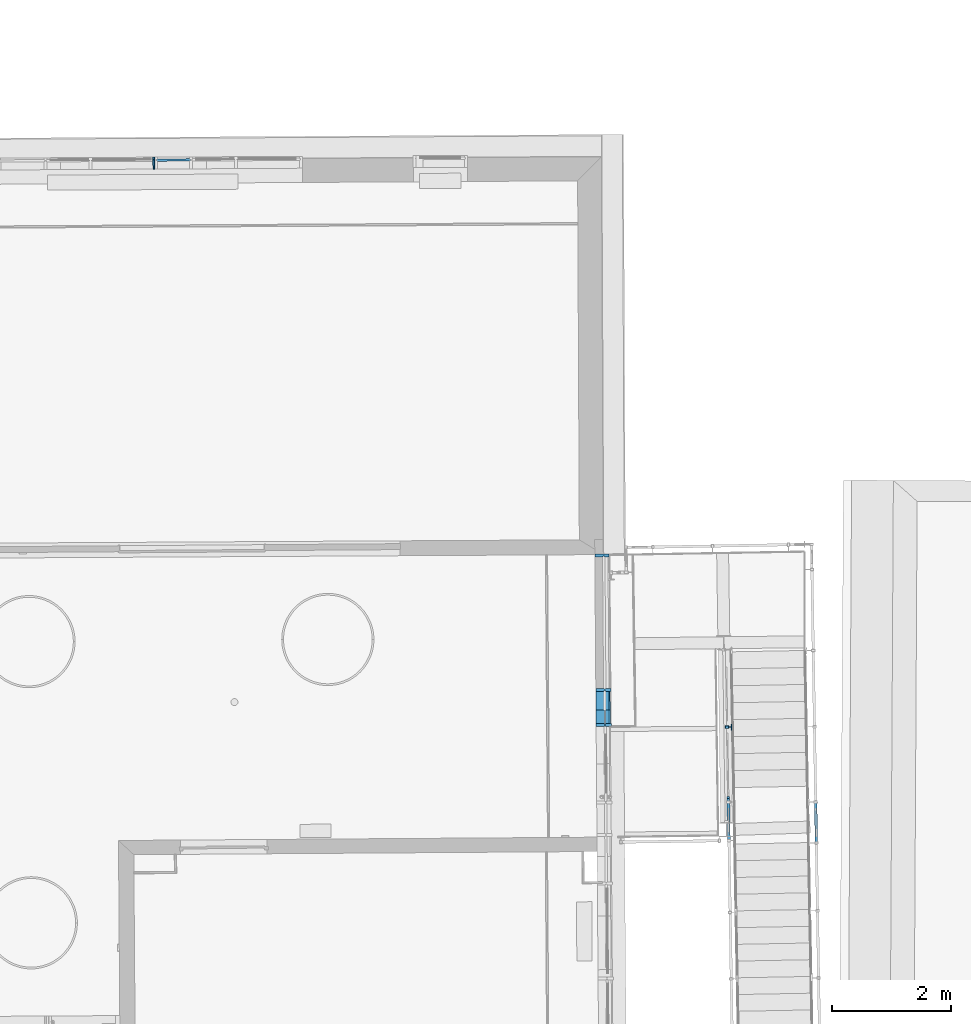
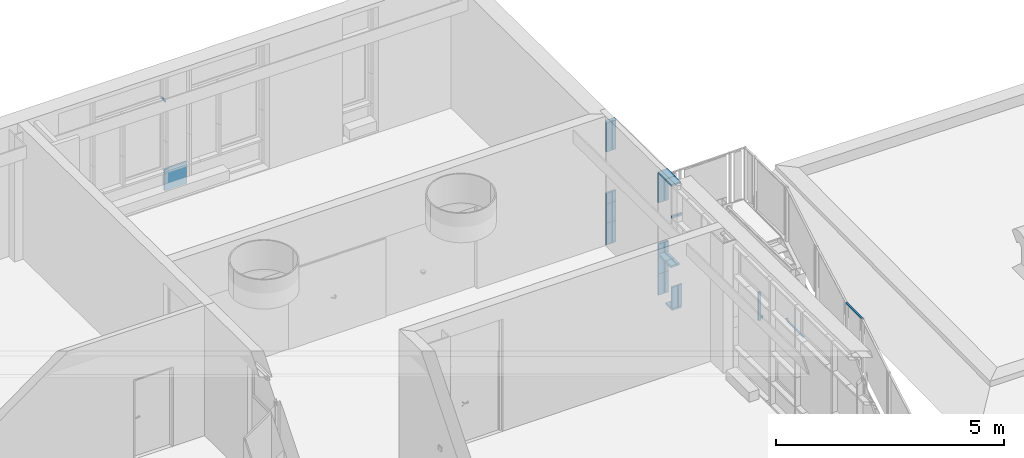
# One storey, part 133 of 158: 21 building element parts, 4 elements without a shape of their own.
"""IFC2X3 building model written with IfcOpenShell, lengths in metres."""

from ifc_helpers import new_model, entity, si_unit, converted_unit, derived_unit, money_unit, direction, frame, origin_with_axes, place, context, subcontext, project, spatial, faceted_brep, material, type_object, element, aggregate, save


model = new_model("IFC2X3")

# Units and contexts
model_context = context("Model", 3, precision=1e-05, world=origin_with_axes(), true_north=direction((0.0, 1.0)))
body_context = subcontext(model_context, "Body", "Model", "MODEL_VIEW")
ifc_project = project(units=[si_unit("LENGTHUNIT", "METRE"), si_unit("AREAUNIT", "SQUARE_METRE"), si_unit("VOLUMEUNIT", "CUBIC_METRE"), converted_unit("PLANEANGLEUNIT", "DEGREE", entity("IfcPlaneAngleMeasure", 0.0174532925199), si_unit("PLANEANGLEUNIT", "RADIAN"), dimensions=[0, 0, 0, 0, 0, 0, 0]), money_unit("EUR"), converted_unit("TIMEUNIT", "Year", entity("IfcTimeMeasure", 31556926.0), si_unit("TIMEUNIT", "SECOND"), dimensions=[0, 0, 1, 0, 0, 0, 0]), si_unit("MASSUNIT", "GRAM", prefix="KILO"), si_unit("THERMODYNAMICTEMPERATUREUNIT", "DEGREE_CELSIUS"), si_unit("LUMINOUSINTENSITYUNIT", "LUMEN"), si_unit("ENERGYUNIT", "JOULE", prefix="MEGA"), derived_unit("THERMALCONDUCTANCEUNIT", [(si_unit("POWERUNIT", "WATT"), 1), (si_unit("LENGTHUNIT", "METRE"), -1), (si_unit("THERMODYNAMICTEMPERATUREUNIT", "KELVIN"), -1)]), derived_unit("SPECIFICHEATCAPACITYUNIT", [(si_unit("ENERGYUNIT", "JOULE"), 1), (si_unit("MASSUNIT", "GRAM", prefix="KILO"), -1), (si_unit("THERMODYNAMICTEMPERATUREUNIT", "KELVIN"), -1)]), derived_unit("MASSDENSITYUNIT", [(si_unit("MASSUNIT", "GRAM", prefix="KILO"), 1), (si_unit("VOLUMEUNIT", "CUBIC_METRE"), -1)])], contexts=[model_context])

# Site, building, storey
site_placement = place(None, origin_with_axes())
site = spatial("IfcSite", under=ifc_project, at=site_placement, Name="Gelände", CompositionType="ELEMENT")
building_placement = place(site_placement, origin_with_axes())
building = spatial("IfcBuilding", under=site, at=building_placement, Name="Gebäude", CompositionType="ELEMENT")
storey_placement = place(building_placement, origin_with_axes())
storey = spatial("IfcBuildingStorey", under=building, at=storey_placement, Name="ERDGESCHOSS", CompositionType="ELEMENT", Elevation=0.0)

# Proxy, building element parts
building_element_proxy_type_1 = type_object("IfcBuildingElementProxyType", Name="Fassadentyp", PredefinedType="NOTDEFINED")
proxy_1_placement = place(storey_placement, frame((-22.8016333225, 53.9701805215, 1.34043904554), z_axis=(0.0, 0.0, 1.0), x_axis=(1.0, 0.0, 0.0)))
proxy_1 = element("IfcBuildingElementProxy", 1, at=proxy_1_placement, inside=storey, type_object=building_element_proxy_type_1, Name="Fassade-002")
ifc_material_1 = material(Name="45_Glas, Normalglas")
building_element_part_1_placement = place(proxy_1_placement, origin_with_axes())
building_element_part_1 = element("IfcBuildingElementPart", 2, at=building_element_part_1_placement, material=ifc_material_1, Name="45_Glas, Normalglas", context=body_context, shape_type="Brep", body=[
    faceted_brep([(-0.284014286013, -0.0216566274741, 0.610000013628), (0.28424755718, -0.0183426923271, 0.610000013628), (0.284014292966, 0.0216566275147, 0.610000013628), (-0.284247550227, 0.0183426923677, 0.610000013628), (-0.284014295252, -0.021656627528, 0.0349999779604), (0.28424755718, -0.0183426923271, 0.0349999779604), (0.284014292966, 0.0216566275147, 0.0349999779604), (-0.284247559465, 0.0183426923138, 0.0349999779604)], [[[0, 1, 2, 3]], [[0, 4, 5, 1]], [[1, 5, 6, 2]], [[3, 2, 6, 7]], [[4, 0, 3, 7]], [[5, 4, 7, 6]]]),
])
ifc_material_2 = material(Name="53_Metall, Aluminium")
building_element_part_2_placement = place(proxy_1_placement, origin_with_axes())
building_element_part_2 = element("IfcBuildingElementPart", 3, at=building_element_part_2_placement, material=ifc_material_2, Name="53_Metall, Aluminium", context=body_context, shape_type="Brep", body=[
    faceted_brep([(-0.345012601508, -0.0120121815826, 2.51000001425), (-0.345012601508, -0.0120121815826, 2.49500001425), (-0.344196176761, -0.152009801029, 2.49500001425), (-0.344196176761, -0.152009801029, 2.54500001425), (-0.345012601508, -0.0120121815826, 2.54500001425), (-0.345012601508, -0.0120121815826, 2.53000001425), (-0.345129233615, 0.00798747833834, 2.53000001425), (-0.345129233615, 0.00798747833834, 2.54500001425), (-0.345362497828, 0.0479867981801, 2.54500001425), (-0.345362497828, 0.0479867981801, 2.49500001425), (-0.345129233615, 0.00798747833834, 2.49500001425), (-0.345129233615, 0.00798747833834, 2.51000001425), (-0.319072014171, -0.0118609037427, 2.51000001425), (-0.319072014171, -0.0118609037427, 2.49500001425), (-0.318255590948, -0.151858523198, 2.49500001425), (-0.318255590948, -0.151858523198, 2.54500001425), (-0.319072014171, -0.0118609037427, 2.54500001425), (-0.319072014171, -0.0118609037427, 2.53000001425), (-0.31918864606, 0.00813875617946, 2.53000001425), (-0.31918864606, 0.00813875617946, 2.54500001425), (-0.319421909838, 0.0481380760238, 2.54500001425), (-0.319421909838, 0.0481380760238, 2.49500001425), (-0.31918864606, 0.00813875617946, 2.49500001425), (-0.31918864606, 0.00813875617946, 2.51000001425)], [[[0, 1, 2, 3, 4, 5, 6, 7, 8, 9, 10, 11]], [[1, 0, 12, 13]], [[1, 13, 14, 2]], [[2, 14, 15, 3]], [[4, 3, 15, 16]], [[4, 16, 17, 5]], [[5, 17, 18, 6]], [[7, 6, 18, 19]], [[19, 20, 8, 7]], [[8, 20, 21, 9]], [[22, 10, 9, 21]], [[11, 10, 22, 23]], [[0, 11, 23, 12]], [[23, 22, 21, 20, 19, 18, 17, 16, 15, 14, 13, 12]]]),
])
aggregate(proxy_1, [building_element_part_1, building_element_part_2])

proxy_2_placement = place(storey_placement, frame((-15.5457352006, 40.9565245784, 1.34043905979), z_axis=(0.0, 0.0, 1.0), x_axis=(1.0, 0.0, 0.0)))
proxy_2 = element("IfcBuildingElementProxy", 4, at=proxy_2_placement, inside=storey, type_object=building_element_proxy_type_1, Name="Fassade-002")
building_element_part_3_placement = place(proxy_2_placement, origin_with_axes())
building_element_part_3 = element("IfcBuildingElementPart", 5, at=building_element_part_3_placement, material=ifc_material_2, Name="53_Metall, Aluminium", context=body_context, shape_type="Brep", body=[
    faceted_brep([(-0.0378042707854, 3.57328589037, 1.12681093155), (-0.0178048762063, 3.57344150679, 1.12681093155), (-0.0178048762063, 3.57344150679, 1.11181093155), (0.042193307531, 3.57390835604, 1.11181093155), (0.042193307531, 3.57390835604, 1.16181093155), (-0.0178048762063, 3.57344150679, 1.16181093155), (-0.0178048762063, 3.57344150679, 1.14681093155), (-0.0378042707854, 3.57328589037, 1.14681093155), (-0.0378042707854, 3.57328589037, 1.16181093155), (-0.177800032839, 3.57219657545, 1.16181093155), (-0.177800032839, 3.57219657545, 1.11181093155), (-0.0378042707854, 3.57328589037, 1.11181093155), (-0.0395669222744, 3.79981678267, 1.12681093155), (-0.0195675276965, 3.79997239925, 1.12681093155), (-0.0195675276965, 3.79997239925, 1.11181093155), (0.040430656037, 3.80043924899, 1.11181093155), (0.040430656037, 3.80043924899, 1.16181093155), (-0.0195675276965, 3.79997239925, 1.16181093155), (-0.0195675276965, 3.79997239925, 1.14681093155), (-0.0395669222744, 3.79981678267, 1.14681093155), (-0.0395669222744, 3.79981678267, 1.16181093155), (-0.179562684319, 3.79872746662, 1.16181093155), (-0.179562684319, 3.79872746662, 1.11181093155), (-0.0395669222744, 3.79981678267, 1.11181093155)], [[[0, 1, 2, 3, 4, 5, 6, 7, 8, 9, 10, 11]], [[0, 12, 13, 1]], [[1, 13, 14, 2]], [[14, 15, 3, 2]], [[3, 15, 16, 4]], [[17, 5, 4, 16]], [[5, 17, 18, 6]], [[7, 6, 18, 19]], [[8, 7, 19, 20]], [[8, 20, 21, 9]], [[9, 21, 22, 10]], [[11, 10, 22, 23]], [[11, 23, 12, 0]], [[13, 12, 23, 22, 21, 20, 19, 18, 17, 16, 15, 14]]]),
])
building_element_part_4_placement = place(proxy_2_placement, origin_with_axes())
building_element_part_4 = element("IfcBuildingElementPart", 6, at=building_element_part_4_placement, material=ifc_material_2, Name="53_Metall, Aluminium", context=body_context, shape_type="Brep", body=[
    faceted_brep([(-0.0375319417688, 3.53828694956, 0.619999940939), (-0.0175325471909, 3.53844256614, 0.619999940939), (-0.0174158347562, 3.52344302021, 0.619999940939), (0.0775812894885, 3.52418219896, 0.619999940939), (0.0771922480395, 3.57418068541, 0.619999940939), (-0.0178048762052, 3.57344150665, 0.619999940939), (-0.0176881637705, 3.55844196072, 0.619999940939), (-0.0376875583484, 3.55828634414, 0.619999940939), (-0.0378042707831, 3.57328589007, 0.619999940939), (-0.177800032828, 3.57219657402, 0.619999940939), (-0.177410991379, 3.52219808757, 0.619999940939), (-0.0374152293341, 3.52328740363, 0.619999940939), (-0.0375319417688, 3.53828694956, 0.0500000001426), (-0.0175325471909, 3.53844256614, 0.0499999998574), (-0.0174158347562, 3.52344302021, 0.0499999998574), (0.0775812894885, 3.52418219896, 0.0499999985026), (0.0771922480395, 3.57418068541, 0.0499999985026), (-0.0178048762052, 3.57344150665, 0.0499999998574), (-0.0176881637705, 3.55844196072, 0.0499999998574), (-0.0376875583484, 3.55828634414, 0.0500000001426), (-0.0378042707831, 3.57328589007, 0.0500000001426), (-0.177800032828, 3.57219657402, 0.0500000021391), (-0.177410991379, 3.52219808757, 0.0500000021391), (-0.0374152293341, 3.52328740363, 0.0500000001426)], [[[0, 1, 2, 3, 4, 5, 6, 7, 8, 9, 10, 11]], [[0, 12, 13, 1]], [[1, 13, 14, 2]], [[14, 15, 3, 2]], [[4, 3, 15, 16]], [[17, 5, 4, 16]], [[5, 17, 18, 6]], [[7, 6, 18, 19]], [[8, 7, 19, 20]], [[8, 20, 21, 9]], [[10, 9, 21, 22]], [[11, 10, 22, 23]], [[11, 23, 12, 0]], [[13, 12, 23, 22, 21, 20, 19, 18, 17, 16, 15, 14]]]),
])
building_element_part_5_placement = place(proxy_2_placement, origin_with_axes())
building_element_part_5 = element("IfcBuildingElementPart", 7, at=building_element_part_5_placement, material=ifc_material_2, Name="53_Metall, Aluminium", context=body_context, shape_type="Brep", body=[
    faceted_brep([(-0.0375319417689, 3.53828694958, 2.51999994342), (-0.0175325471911, 3.53844256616, 2.51999994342), (-0.0174158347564, 3.52344302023, 2.51999994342), (0.0775812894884, 3.52418219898, 2.51999994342), (0.0771922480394, 3.57418068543, 2.51999994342), (-0.0178048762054, 3.57344150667, 2.51999994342), (-0.0176881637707, 3.55844196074, 2.51999994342), (-0.0376875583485, 3.55828634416, 2.51999994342), (-0.0378042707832, 3.57328589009, 2.51999994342), (-0.177800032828, 3.57219657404, 2.51999994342), (-0.177410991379, 3.52219808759, 2.51999994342), (-0.0374152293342, 3.52328740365, 2.51999994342), (-0.0375319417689, 3.53828694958, 2.45991868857), (-0.0175325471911, 3.53844256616, 2.45991868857), (-0.0174158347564, 3.52344302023, 2.45991868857), (0.0775812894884, 3.52418219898, 2.45991868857), (0.0771922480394, 3.57418068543, 2.45991868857), (-0.0178048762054, 3.57344150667, 2.45991868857), (-0.0176881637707, 3.55844196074, 2.45991868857), (-0.0376875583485, 3.55828634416, 2.45991868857), (-0.0378042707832, 3.57328589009, 2.45991868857), (-0.177800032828, 3.57219657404, 2.45991868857), (-0.177410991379, 3.52219808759, 2.45991868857), (-0.0374152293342, 3.52328740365, 2.45991868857)], [[[0, 1, 2, 3, 4, 5, 6, 7, 8, 9, 10, 11]], [[0, 12, 13, 1]], [[1, 13, 14, 2]], [[14, 15, 3, 2]], [[3, 15, 16, 4]], [[17, 5, 4, 16]], [[5, 17, 18, 6]], [[7, 6, 18, 19]], [[8, 7, 19, 20]], [[8, 20, 21, 9]], [[9, 21, 22, 10]], [[11, 10, 22, 23]], [[11, 23, 12, 0]], [[13, 12, 23, 22, 21, 20, 19, 18, 17, 16, 15, 14]]]),
])
building_element_part_6_placement = place(proxy_2_placement, origin_with_axes())
building_element_part_6 = element("IfcBuildingElementPart", 8, at=building_element_part_6_placement, material=ifc_material_2, Name="53_Metall, Aluminium", context=body_context, shape_type="Brep", body=[
    faceted_brep([(-0.0374152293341, 3.52328740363, 0.035), (-0.0374152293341, 3.52328740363, 0.05), (-0.177410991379, 3.52219808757, 0.05), (-0.177410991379, 3.52219808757, 0.0), (0.0625817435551, 3.52406548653, 0.0), (0.0625817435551, 3.52406548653, 0.05), (-0.0174158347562, 3.52344302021, 0.05), (-0.0174158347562, 3.52344302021, 0.035), (-0.0395669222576, 3.79981678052, 0.035), (-0.0395669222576, 3.79981678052, 0.05), (-0.179562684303, 3.79872746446, 0.05), (-0.179562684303, 3.79872746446, 0.0), (0.0604300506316, 3.80059486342, 0.0), (0.0604300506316, 3.80059486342, 0.05), (-0.0195675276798, 3.7999723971, 0.05), (-0.0195675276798, 3.7999723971, 0.035)], [[[0, 1, 2, 3, 4, 5, 6, 7]], [[0, 8, 9, 1]], [[9, 10, 2, 1]], [[10, 11, 3, 2]], [[11, 12, 4, 3]], [[12, 13, 5, 4]], [[6, 5, 13, 14]], [[14, 15, 7, 6]], [[7, 15, 8, 0]], [[8, 15, 14, 13, 12, 11, 10, 9]]]),
])
building_element_part_7_placement = place(proxy_2_placement, origin_with_axes())
building_element_part_7 = element("IfcBuildingElementPart", 9, at=building_element_part_7_placement, material=ifc_material_2, Name="53_Metall, Aluminium", context=body_context, shape_type="Brep", body=[
    faceted_brep([(-0.0395669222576, 3.79981678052, 3.31499987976), (-0.0195675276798, 3.7999723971, 3.31499987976), (-0.0195675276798, 3.7999723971, 3.29999987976), (0.0604300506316, 3.80059486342, 3.29999987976), (0.0604300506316, 3.80059486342, 3.34999987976), (-0.179562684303, 3.79872746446, 3.34999987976), (-0.179562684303, 3.79872746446, 3.29999987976), (-0.0395669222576, 3.79981678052, 3.29999987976), (-0.0422024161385, 4.13852286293, 3.31499987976), (-0.0222030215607, 4.13867847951, 3.31499987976), (-0.0222030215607, 4.13867847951, 3.29999987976), (0.0577945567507, 4.13930094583, 3.29999987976), (0.0577945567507, 4.13930094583, 3.34999987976), (-0.182198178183, 4.13743354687, 3.34999987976), (-0.182198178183, 4.13743354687, 3.29999987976), (-0.0422024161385, 4.13852286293, 3.29999987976)], [[[0, 1, 2, 3, 4, 5, 6, 7]], [[1, 0, 8, 9]], [[10, 2, 1, 9]], [[2, 10, 11, 3]], [[12, 4, 3, 11]], [[13, 5, 4, 12]], [[14, 6, 5, 13]], [[15, 7, 6, 14]], [[0, 7, 15, 8]], [[8, 15, 14, 13, 12, 11, 10, 9]]]),
])
building_element_part_8_placement = place(proxy_2_placement, origin_with_axes())
building_element_part_8 = element("IfcBuildingElementPart", 10, at=building_element_part_8_placement, material=ifc_material_2, Name="53_Metall, Aluminium", context=body_context, shape_type="Brep", body=[
    faceted_brep([(-0.0376097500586, 3.54828664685, 3.31499987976), (-0.0176103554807, 3.54844226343, 3.31499987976), (-0.0176103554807, 3.54844226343, 3.29999987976), (0.0623872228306, 3.54906472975, 3.29999987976), (0.0623872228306, 3.54906472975, 3.34999987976), (-0.177605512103, 3.54719733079, 3.34999987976), (-0.177605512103, 3.54719733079, 3.29999987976), (-0.0376097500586, 3.54828664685, 3.29999987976), (-0.0395669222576, 3.79981678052, 3.31499987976), (-0.0195675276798, 3.7999723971, 3.31499987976), (-0.0195675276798, 3.7999723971, 3.29999987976), (0.0604300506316, 3.80059486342, 3.29999987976), (0.0604300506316, 3.80059486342, 3.34999987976), (-0.179562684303, 3.79872746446, 3.34999987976), (-0.179562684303, 3.79872746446, 3.29999987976), (-0.0395669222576, 3.79981678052, 3.29999987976)], [[[0, 1, 2, 3, 4, 5, 6, 7]], [[1, 0, 8, 9]], [[10, 2, 1, 9]], [[2, 10, 11, 3]], [[12, 4, 3, 11]], [[13, 5, 4, 12]], [[14, 6, 5, 13]], [[15, 7, 6, 14]], [[0, 7, 15, 8]], [[8, 15, 14, 13, 12, 11, 10, 9]]]),
])
building_element_part_9_placement = place(proxy_2_placement, origin_with_axes())
building_element_part_9 = element("IfcBuildingElementPart", 11, at=building_element_part_9_placement, material=ifc_material_2, Name="53_Metall, Aluminium", context=body_context, shape_type="Brep", body=[
    faceted_brep([(-0.0421246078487, 4.12852316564, 1.1368109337), (-0.0221252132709, 4.12867878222, 1.1368109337), (-0.0220085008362, 4.11367923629, 1.1368109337), (0.0729886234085, 4.11441841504, 1.1368109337), (0.0725995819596, 4.16441690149, 1.1368109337), (-0.0223975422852, 4.16367772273, 1.1368109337), (-0.0222808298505, 4.1486781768, 1.1368109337), (-0.0422802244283, 4.14852256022, 1.1368109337), (-0.042396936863, 4.16352210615, 1.1368109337), (-0.182392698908, 4.1624327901, 1.1368109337), (-0.182003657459, 4.11243430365, 1.1368109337), (-0.0420078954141, 4.11352361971, 1.1368109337), (-0.0421246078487, 4.12852316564, 0.619999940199), (-0.0221252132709, 4.12867878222, 0.619999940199), (-0.0220085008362, 4.11367923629, 0.619999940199), (0.0729886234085, 4.11441841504, 0.619999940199), (0.0725995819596, 4.16441690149, 0.619999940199), (-0.0223975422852, 4.16367772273, 0.619999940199), (-0.0222808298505, 4.1486781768, 0.619999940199), (-0.0422802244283, 4.14852256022, 0.619999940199), (-0.042396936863, 4.16352210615, 0.619999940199), (-0.182392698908, 4.1624327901, 0.619999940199), (-0.182003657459, 4.11243430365, 0.619999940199), (-0.0420078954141, 4.11352361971, 0.619999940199)], [[[0, 1, 2, 3, 4, 5, 6, 7, 8, 9, 10, 11]], [[0, 12, 13, 1]], [[1, 13, 14, 2]], [[14, 15, 3, 2]], [[3, 15, 16, 4]], [[17, 5, 4, 16]], [[5, 17, 18, 6]], [[7, 6, 18, 19]], [[8, 7, 19, 20]], [[8, 20, 21, 9]], [[9, 21, 22, 10]], [[11, 10, 22, 23]], [[11, 23, 12, 0]], [[13, 12, 23, 22, 21, 20, 19, 18, 17, 16, 15, 14]]]),
])
building_element_part_10_placement = place(proxy_2_placement, origin_with_axes())
building_element_part_10 = element("IfcBuildingElementPart", 12, at=building_element_part_10_placement, material=ifc_material_2, Name="53_Metall, Aluminium", context=body_context, shape_type="Brep", body=[
    faceted_brep([(-0.0421246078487, 4.12852316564, 3.29999987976), (-0.0221252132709, 4.12867878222, 3.29999987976), (-0.0220085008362, 4.11367923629, 3.29999987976), (0.0729886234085, 4.11441841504, 3.29999987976), (0.0725995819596, 4.16441690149, 3.29999987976), (-0.0223975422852, 4.16367772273, 3.29999987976), (-0.0222808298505, 4.1486781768, 3.29999987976), (-0.0422802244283, 4.14852256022, 3.29999987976), (-0.042396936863, 4.16352210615, 3.29999987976), (-0.182392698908, 4.1624327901, 3.29999987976), (-0.182003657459, 4.11243430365, 3.29999987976), (-0.0420078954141, 4.11352361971, 3.29999987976), (-0.0421246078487, 4.12852316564, 2.5199999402), (-0.0221252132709, 4.12867878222, 2.5199999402), (-0.0220085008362, 4.11367923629, 2.5199999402), (0.0729886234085, 4.11441841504, 2.5199999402), (0.0725995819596, 4.16441690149, 2.5199999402), (-0.0223975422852, 4.16367772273, 2.5199999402), (-0.0222808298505, 4.1486781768, 2.5199999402), (-0.0422802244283, 4.14852256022, 2.5199999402), (-0.042396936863, 4.16352210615, 2.5199999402), (-0.182392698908, 4.1624327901, 2.5199999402), (-0.182003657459, 4.11243430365, 2.5199999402), (-0.0420078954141, 4.11352361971, 2.5199999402)], [[[0, 1, 2, 3, 4, 5, 6, 7, 8, 9, 10, 11]], [[0, 12, 13, 1]], [[1, 13, 14, 2]], [[14, 15, 3, 2]], [[3, 15, 16, 4]], [[17, 5, 4, 16]], [[5, 17, 18, 6]], [[7, 6, 18, 19]], [[8, 7, 19, 20]], [[8, 20, 21, 9]], [[9, 21, 22, 10]], [[11, 10, 22, 23]], [[11, 23, 12, 0]], [[13, 12, 23, 22, 21, 20, 19, 18, 17, 16, 15, 14]]]),
])
building_element_part_11_placement = place(proxy_2_placement, origin_with_axes())
building_element_part_11 = element("IfcBuildingElementPart", 13, at=building_element_part_11_placement, material=ifc_material_2, Name="53_Metall, Aluminium", context=body_context, shape_type="Brep", body=[
    faceted_brep([(-0.0596164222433, 6.37652076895, 0.61999994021), (-0.0396170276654, 6.37667638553, 0.61999994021), (-0.0395003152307, 6.3616768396, 0.61999994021), (0.0404972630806, 6.36229930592, 0.61999994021), (0.0401082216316, 6.41229779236, 0.61999994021), (-0.199884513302, 6.41043039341, 0.61999994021), (-0.199495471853, 6.36043190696, 0.61999994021), (-0.0594997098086, 6.36152122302, 0.61999994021), (-0.0596164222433, 6.37652076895, 0.035), (-0.0396170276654, 6.37667638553, 0.035), (-0.0395003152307, 6.3616768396, 0.05), (0.0404972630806, 6.36229930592, 0.05), (0.0401082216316, 6.41229779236, 0.0), (-0.199884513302, 6.41043039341, 0.0), (-0.199495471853, 6.36043190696, 0.05), (-0.0594997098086, 6.36152122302, 0.05)], [[[0, 1, 2, 3, 4, 5, 6, 7]], [[1, 0, 8, 9]], [[10, 2, 1, 9]], [[2, 10, 11, 3]], [[4, 3, 11, 12]], [[5, 4, 12, 13]], [[6, 5, 13, 14]], [[15, 7, 6, 14]], [[0, 7, 15, 8]], [[8, 15, 14, 13, 12, 11, 10, 9]]]),
])
building_element_part_12_placement = place(proxy_2_placement, origin_with_axes())
building_element_part_12 = element("IfcBuildingElementPart", 14, at=building_element_part_12_placement, material=ifc_material_2, Name="53_Metall, Aluminium", context=body_context, shape_type="Brep", body=[
    faceted_brep([(-0.0395669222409, 3.79981677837, 1.12681095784), (-0.019567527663, 3.79997239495, 1.12681095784), (-0.019567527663, 3.79997239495, 1.11181095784), (0.0404306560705, 3.80043924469, 1.11181095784), (0.0404306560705, 3.80043924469, 1.16181095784), (-0.019567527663, 3.79997239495, 1.16181095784), (-0.019567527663, 3.79997239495, 1.14681095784), (-0.0395669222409, 3.79981677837, 1.14681095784), (-0.0395669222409, 3.79981677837, 1.16181095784), (-0.179562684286, 3.79872746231, 1.16181095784), (-0.179562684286, 3.79872746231, 1.11181095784), (-0.0395669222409, 3.79981677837, 1.11181095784), (-0.042007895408, 4.11352361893, 1.12681095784), (-0.0220085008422, 4.11367923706, 1.12681095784), (-0.0220085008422, 4.11367923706, 1.11181095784), (0.037989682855, 4.11414609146, 1.11181095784), (0.037989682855, 4.11414609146, 1.16181095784), (-0.0220085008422, 4.11367923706, 1.16181095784), (-0.0220085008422, 4.11367923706, 1.14681095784), (-0.042007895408, 4.11352361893, 1.14681095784), (-0.042007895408, 4.11352361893, 1.16181095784), (-0.182003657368, 4.11243429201, 1.16181095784), (-0.182003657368, 4.11243429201, 1.11181095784), (-0.042007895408, 4.11352361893, 1.11181095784)], [[[0, 1, 2, 3, 4, 5, 6, 7, 8, 9, 10, 11]], [[0, 12, 13, 1]], [[1, 13, 14, 2]], [[14, 15, 3, 2]], [[4, 3, 15, 16]], [[17, 5, 4, 16]], [[5, 17, 18, 6]], [[7, 6, 18, 19]], [[8, 7, 19, 20]], [[8, 20, 21, 9]], [[10, 9, 21, 22]], [[11, 10, 22, 23]], [[11, 23, 12, 0]], [[13, 12, 23, 22, 21, 20, 19, 18, 17, 16, 15, 14]]]),
])
building_element_part_13_placement = place(proxy_2_placement, origin_with_axes())
building_element_part_13 = element("IfcBuildingElementPart", 15, at=building_element_part_13_placement, material=ifc_material_2, Name="53_Metall, Aluminium", context=body_context, shape_type="Brep", body=[
    faceted_brep([(-0.0596164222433, 6.37652076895, 3.31499987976), (-0.0396170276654, 6.37667638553, 3.31499987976), (-0.0395003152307, 6.3616768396, 3.29999987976), (0.0404972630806, 6.36229930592, 3.29999987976), (0.0401082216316, 6.41229779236, 3.34999987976), (-0.199884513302, 6.41043039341, 3.34999987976), (-0.199495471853, 6.36043190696, 3.29999987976), (-0.0594997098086, 6.36152122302, 3.29999987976), (-0.0596164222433, 6.37652076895, 2.51999994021), (-0.0396170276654, 6.37667638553, 2.51999994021), (-0.0395003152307, 6.3616768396, 2.51999994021), (0.0404972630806, 6.36229930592, 2.51999994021), (0.0401082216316, 6.41229779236, 2.51999994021), (-0.199884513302, 6.41043039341, 2.51999994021), (-0.199495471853, 6.36043190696, 2.51999994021), (-0.0594997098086, 6.36152122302, 2.51999994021)], [[[0, 1, 2, 3, 4, 5, 6, 7]], [[1, 0, 8, 9]], [[10, 2, 1, 9]], [[2, 10, 11, 3]], [[12, 4, 3, 11]], [[13, 5, 4, 12]], [[14, 6, 5, 13]], [[15, 7, 6, 14]], [[0, 7, 15, 8]], [[8, 15, 14, 13, 12, 11, 10, 9]]]),
])
building_element_part_14_placement = place(proxy_2_placement, origin_with_axes())
building_element_part_14 = element("IfcBuildingElementPart", 16, at=building_element_part_14_placement, material=ifc_material_2, Name="53_Metall, Aluminium", context=body_context, shape_type="Brep", body=[
    faceted_brep([(-0.0596164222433, 6.37652076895, 1.41999994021), (-0.0396170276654, 6.37667638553, 1.41999994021), (-0.0395003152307, 6.3616768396, 1.41999994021), (0.0404972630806, 6.36229930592, 1.41999994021), (0.0401082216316, 6.41229779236, 1.41999994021), (-0.199884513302, 6.41043039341, 1.41999994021), (-0.199495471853, 6.36043190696, 1.41999994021), (-0.0594997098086, 6.36152122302, 1.41999994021), (-0.0596164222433, 6.37652076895, 1.13681095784), (-0.0396170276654, 6.37667638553, 1.13681095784), (-0.0395003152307, 6.3616768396, 1.13681095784), (0.0404972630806, 6.36229930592, 1.13681095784), (0.0401082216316, 6.41229779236, 1.13681095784), (-0.199884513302, 6.41043039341, 1.13681095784), (-0.199495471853, 6.36043190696, 1.13681095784), (-0.0594997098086, 6.36152122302, 1.13681095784)], [[[0, 1, 2, 3, 4, 5, 6, 7]], [[1, 0, 8, 9]], [[10, 2, 1, 9]], [[2, 10, 11, 3]], [[12, 4, 3, 11]], [[13, 5, 4, 12]], [[14, 6, 5, 13]], [[15, 7, 6, 14]], [[0, 7, 15, 8]], [[8, 15, 14, 13, 12, 11, 10, 9]]]),
])
building_element_part_15_placement = place(proxy_2_placement, origin_with_axes())
building_element_part_15 = element("IfcBuildingElementPart", 17, at=building_element_part_15_placement, material=ifc_material_2, Name="53_Metall, Aluminium", context=body_context, shape_type="Brep", body=[
    faceted_brep([(-0.0421246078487, 4.12852316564, 1.41999996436), (-0.0221252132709, 4.12867878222, 1.41999996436), (-0.0220085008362, 4.11367923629, 1.41999996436), (0.0729886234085, 4.11441841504, 1.41999996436), (0.0725995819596, 4.16441690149, 1.41999996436), (-0.0223975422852, 4.16367772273, 1.41999996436), (-0.0222808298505, 4.1486781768, 1.41999996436), (-0.0422802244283, 4.14852256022, 1.41999996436), (-0.042396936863, 4.16352210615, 1.41999996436), (-0.182392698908, 4.1624327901, 1.41999996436), (-0.182003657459, 4.11243430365, 1.41999996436), (-0.0420078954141, 4.11352361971, 1.41999996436), (-0.0421246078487, 4.12852316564, 1.13681095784), (-0.0221252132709, 4.12867878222, 1.13681095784), (-0.0220085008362, 4.11367923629, 1.13681095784), (0.0729886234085, 4.11441841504, 1.13681095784), (0.0725995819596, 4.16441690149, 1.13681095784), (-0.0223975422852, 4.16367772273, 1.13681095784), (-0.0222808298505, 4.1486781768, 1.13681095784), (-0.0422802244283, 4.14852256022, 1.13681095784), (-0.042396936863, 4.16352210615, 1.13681095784), (-0.182392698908, 4.1624327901, 1.13681095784), (-0.182003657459, 4.11243430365, 1.13681095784), (-0.0420078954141, 4.11352361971, 1.13681095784)], [[[0, 1, 2, 3, 4, 5, 6, 7, 8, 9, 10, 11]], [[0, 12, 13, 1]], [[1, 13, 14, 2]], [[14, 15, 3, 2]], [[3, 15, 16, 4]], [[17, 5, 4, 16]], [[5, 17, 18, 6]], [[7, 6, 18, 19]], [[8, 7, 19, 20]], [[8, 20, 21, 9]], [[9, 21, 22, 10]], [[11, 10, 22, 23]], [[11, 23, 12, 0]], [[13, 12, 23, 22, 21, 20, 19, 18, 17, 16, 15, 14]]]),
])
building_element_part_16_placement = place(proxy_2_placement, origin_with_axes())
building_element_part_16 = element("IfcBuildingElementPart", 18, at=building_element_part_16_placement, material=ifc_material_2, Name="53_Metall, Aluminium", context=body_context, shape_type="Brep", body=[
    faceted_brep([(-0.0421246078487, 4.12852316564, 0.619999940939), (-0.0221252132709, 4.12867878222, 0.619999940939), (-0.0220085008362, 4.11367923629, 0.619999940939), (0.0729886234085, 4.11441841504, 0.619999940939), (0.0725995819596, 4.16441690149, 0.619999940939), (-0.0223975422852, 4.16367772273, 0.619999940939), (-0.0222808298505, 4.1486781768, 0.619999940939), (-0.0422802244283, 4.14852256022, 0.619999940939), (-0.042396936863, 4.16352210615, 0.619999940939), (-0.182392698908, 4.1624327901, 0.619999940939), (-0.182003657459, 4.11243430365, 0.619999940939), (-0.0420078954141, 4.11352361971, 0.619999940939), (-0.0421246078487, 4.12852316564, 0.0500000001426), (-0.0221252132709, 4.12867878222, 0.0499999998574), (-0.0220085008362, 4.11367923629, 0.0499999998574), (0.0729886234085, 4.11441841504, 0.0499999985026), (0.0725995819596, 4.16441690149, 0.0499999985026), (-0.0223975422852, 4.16367772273, 0.0499999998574), (-0.0222808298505, 4.1486781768, 0.0499999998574), (-0.0422802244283, 4.14852256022, 0.0500000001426), (-0.042396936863, 4.16352210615, 0.0500000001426), (-0.182392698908, 4.1624327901, 0.0500000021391), (-0.182003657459, 4.11243430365, 0.0500000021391), (-0.0420078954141, 4.11352361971, 0.0500000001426)], [[[0, 1, 2, 3, 4, 5, 6, 7, 8, 9, 10, 11]], [[0, 12, 13, 1]], [[1, 13, 14, 2]], [[14, 15, 3, 2]], [[4, 3, 15, 16]], [[17, 5, 4, 16]], [[5, 17, 18, 6]], [[7, 6, 18, 19]], [[8, 7, 19, 20]], [[8, 20, 21, 9]], [[10, 9, 21, 22]], [[11, 10, 22, 23]], [[11, 23, 12, 0]], [[13, 12, 23, 22, 21, 20, 19, 18, 17, 16, 15, 14]]]),
])
building_element_part_17_placement = place(proxy_2_placement, origin_with_axes())
building_element_part_17 = element("IfcBuildingElementPart", 19, at=building_element_part_17_placement, material=ifc_material_2, Name="53_Metall, Aluminium", context=body_context, shape_type="Brep", body=[
    faceted_brep([(-0.0596164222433, 6.37652076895, 1.13681095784), (-0.0396170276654, 6.37667638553, 1.13681095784), (-0.0395003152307, 6.3616768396, 1.13681095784), (0.0404972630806, 6.36229930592, 1.13681095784), (0.0401082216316, 6.41229779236, 1.13681095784), (-0.199884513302, 6.41043039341, 1.13681095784), (-0.199495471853, 6.36043190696, 1.13681095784), (-0.0594997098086, 6.36152122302, 1.13681095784), (-0.0596164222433, 6.37652076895, 0.61999994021), (-0.0396170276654, 6.37667638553, 0.61999994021), (-0.0395003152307, 6.3616768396, 0.61999994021), (0.0404972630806, 6.36229930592, 0.61999994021), (0.0401082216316, 6.41229779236, 0.61999994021), (-0.199884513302, 6.41043039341, 0.61999994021), (-0.199495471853, 6.36043190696, 0.61999994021), (-0.0594997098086, 6.36152122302, 0.61999994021)], [[[0, 1, 2, 3, 4, 5, 6, 7]], [[1, 0, 8, 9]], [[10, 2, 1, 9]], [[2, 10, 11, 3]], [[12, 4, 3, 11]], [[13, 5, 4, 12]], [[14, 6, 5, 13]], [[15, 7, 6, 14]], [[0, 7, 15, 8]], [[8, 15, 14, 13, 12, 11, 10, 9]]]),
])
aggregate(proxy_2, [building_element_part_3, building_element_part_4, building_element_part_5, building_element_part_6, building_element_part_7, building_element_part_8, building_element_part_9, building_element_part_10, building_element_part_11, building_element_part_12, building_element_part_13, building_element_part_14, building_element_part_15, building_element_part_16, building_element_part_17])

building_element_proxy_type_2 = type_object("IfcBuildingElementProxyType", Name="Geländerart", PredefinedType="NOTDEFINED")
proxy_3_placement = place(storey_placement, frame((-13.4431717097, 39.2328276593, -2.51797066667), z_axis=(0.0, 0.0, 1.0), x_axis=(1.0, 0.0, 0.0)))
proxy_3 = element("IfcBuildingElementProxy", 20, at=proxy_3_placement, inside=storey, type_object=building_element_proxy_type_2, Name="Geländer-001")
ifc_material_3 = material(Name="56_Metall, Stahl verzinkt")
building_element_part_18_placement = place(proxy_3_placement, origin_with_axes())
building_element_part_18 = element("IfcBuildingElementPart", 21, at=building_element_part_18_placement, material=ifc_material_3, Name="56_Metall, Stahl verzinkt", context=body_context, shape_type="Brep", body=[
    faceted_brep([(-0.0554244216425, 5.25773045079, 3.59851503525), (-0.0547723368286, 5.21773576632, 3.59851503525), (-0.0547723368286, 5.21773576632, 2.84065953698), (-0.0554244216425, 5.25773045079, 2.86514846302), (-0.114764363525, 5.2167576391, 3.59851503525), (-0.115416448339, 5.25675232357, 3.59851503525), (-0.114764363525, 5.2167576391, 2.84065953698), (-0.115416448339, 5.25675232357, 2.86514846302)], [[[0, 1, 2, 3]], [[4, 1, 0, 5]], [[1, 4, 6, 2]], [[7, 3, 2, 6]], [[5, 0, 3, 7]], [[4, 5, 7, 6]]]),
    faceted_brep([(-0.0551391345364, 5.24023277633, 2.877904), (-0.0551391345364, 5.24023277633, 2.927904), (-0.0141445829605, 5.24090116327, 2.927904), (-0.0141445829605, 5.24090116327, 2.877904), (-0.0550576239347, 5.23523344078, 2.927904), (-0.0550576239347, 5.23523344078, 2.877904), (-0.0140630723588, 5.23590182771, 2.927904), (-0.0140630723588, 5.23590182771, 2.877904)], [[[0, 1, 2, 3]], [[4, 1, 0, 5]], [[1, 4, 6, 2]], [[3, 2, 6, 7]], [[5, 0, 3, 7]], [[4, 5, 7, 6]]]),
    faceted_brep([(-0.0119193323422, 5.28844375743, 2.952904), (-0.014918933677, 5.28839485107, 2.952904), (-0.0132887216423, 5.18840813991, 2.952904), (-0.0102891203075, 5.18845704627, 2.952904), (-0.0119193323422, 5.28844375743, 2.852904), (-0.014918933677, 5.28839485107, 2.852904), (-0.0132887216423, 5.18840813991, 2.852904), (-0.0102891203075, 5.18845704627, 2.852904)], [[[0, 1, 2, 3]], [[4, 5, 1, 0]], [[1, 5, 6, 2]], [[3, 2, 6, 7]], [[0, 3, 7, 4]], [[7, 6, 5, 4]]]),
])
building_element_part_19_placement = place(proxy_3_placement, origin_with_axes())
building_element_part_19 = element("IfcBuildingElementPart", 22, at=building_element_part_19_placement, material=ifc_material_3, Name="56_Metall, Stahl verzinkt", context=body_context, shape_type="Brep", body=[
    faceted_brep([(-0.0315916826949, 3.33592082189, 3.53748435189), (-0.0316664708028, 3.34050784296, 3.522643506), (-0.0421972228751, 3.98639637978, 3.54649263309), (-0.0421266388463, 3.98206720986, 3.561343), (-0.0765857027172, 3.33518722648, 3.53748435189), (-0.0766604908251, 3.33977424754, 3.522643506), (-0.0871912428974, 3.98566278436, 3.54649263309), (-0.0871206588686, 3.98133361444, 3.561343)], [[[0, 1, 2, 3]], [[0, 4, 5, 1]], [[1, 5, 6, 2]], [[3, 2, 6, 7]], [[4, 0, 3, 7]], [[5, 4, 7, 6]]]),
])
building_element_part_20_placement = place(proxy_3_placement, origin_with_axes())
building_element_part_20 = element("IfcBuildingElementPart", 23, at=building_element_part_20_placement, material=ifc_material_3, Name="56_Metall, Stahl verzinkt", context=body_context, shape_type="Brep", body=[
    faceted_brep([(-0.0436430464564, 4.07507389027, 3.59851503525), (-0.0431597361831, 4.04543074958, 3.59851503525), (-0.0421266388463, 3.98206720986, 3.561343), (-0.0421972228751, 3.98639637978, 3.54649263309), (-0.0881537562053, 4.04469715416, 3.59851503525), (-0.0886370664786, 4.07434029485, 3.59851503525), (-0.0871206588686, 3.98133361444, 3.561343), (-0.0871912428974, 3.98566278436, 3.54649263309)], [[[0, 1, 2, 3]], [[4, 1, 0, 5]], [[1, 4, 6, 2]], [[3, 2, 6, 7]], [[5, 0, 3, 7]], [[4, 5, 7, 6]]]),
])
aggregate(proxy_3, [building_element_part_18, building_element_part_19, building_element_part_20])

# Proxy, building element part
proxy_4_placement = place(storey_placement, frame((-12.121386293, 39.1724071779, -2.51797066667), z_axis=(0.0, 0.0, 1.0), x_axis=(1.0, 0.0, 0.0)))
proxy_4 = element("IfcBuildingElementProxy", 24, at=proxy_4_placement, inside=storey, type_object=building_element_proxy_type_2, Name="Geländer-001")
building_element_part_21_placement = place(proxy_4_placement, origin_with_axes())
building_element_part_21 = element("IfcBuildingElementPart", 25, at=building_element_part_21_placement, material=ifc_material_3, Name="56_Metall, Stahl verzinkt", context=body_context, shape_type="Brep", body=[
    faceted_brep([(0.11048729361, 3.35960520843, 3.53748435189), (0.110409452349, 3.36437949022, 3.5226419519), (0.0992792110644, 4.0470368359, 3.5464839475), (0.0993492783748, 4.04273935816, 3.561343), (0.0654932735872, 3.35887161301, 3.53748435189), (0.0654154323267, 3.3636458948, 3.5226419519), (0.0542851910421, 4.04630324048, 3.5464839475), (0.0543552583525, 4.04200576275, 3.561343)], [[[0, 1, 2, 3]], [[0, 4, 5, 1]], [[1, 5, 6, 2]], [[3, 2, 6, 7]], [[4, 0, 3, 7]], [[5, 4, 7, 6]]]),
])
aggregate(proxy_4, [building_element_part_21])

save(model, "model.ifc")
